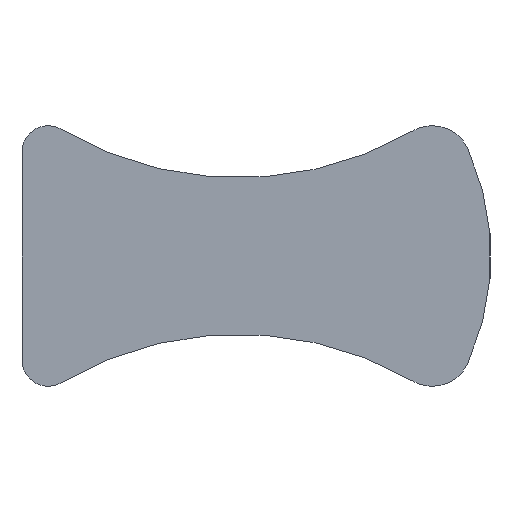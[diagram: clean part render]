
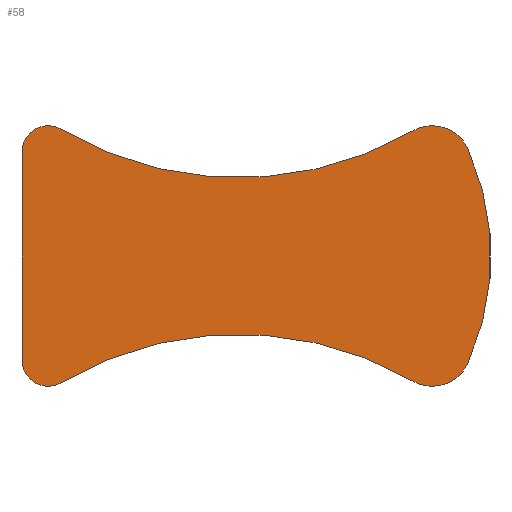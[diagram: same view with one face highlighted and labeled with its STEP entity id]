
A CAD part, left-side view. The second image highlights one B-rep face of the part: STEP entity #58.
In plain terms, the highlighted planar face has unit normal (-1, 0, 0).
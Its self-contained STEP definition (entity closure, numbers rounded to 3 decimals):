
#58 = ADVANCED_FACE( '', ( #125 ), #126, .F. );
#125 = FACE_OUTER_BOUND( '', #194, .T. );
#126 = PLANE( '', #195 );
#194 = EDGE_LOOP( '', ( #288, #289, #290, #291, #292, #293, #294, #295 ) );
#195 = AXIS2_PLACEMENT_3D( '', #296, #297, #298 );
#288 = ORIENTED_EDGE( '', *, *, #376, .F. );
#289 = ORIENTED_EDGE( '', *, *, #391, .F. );
#290 = ORIENTED_EDGE( '', *, *, #368, .T. );
#291 = ORIENTED_EDGE( '', *, *, #394, .F. );
#292 = ORIENTED_EDGE( '', *, *, #395, .F. );
#293 = ORIENTED_EDGE( '', *, *, #386, .F. );
#294 = ORIENTED_EDGE( '', *, *, #381, .T. );
#295 = ORIENTED_EDGE( '', *, *, #396, .F. );
#296 = CARTESIAN_POINT( '', ( -12., -1., 4. ) );
#297 = DIRECTION( '', ( 1., 0., 0. ) );
#298 = DIRECTION( '', ( 0., 0., -1. ) );
#368 = EDGE_CURVE( '', #421, #422, #423, .T. );
#376 = EDGE_CURVE( '', #436, #437, #438, .T. );
#381 = EDGE_CURVE( '', #445, #446, #447, .T. );
#386 = EDGE_CURVE( '', #445, #454, #455, .T. );
#391 = EDGE_CURVE( '', #421, #436, #461, .T. );
#394 = EDGE_CURVE( '', #464, #422, #465, .T. );
#395 = EDGE_CURVE( '', #454, #464, #466, .T. );
#396 = EDGE_CURVE( '', #437, #446, #467, .T. );
#421 = VERTEX_POINT( '', #495 );
#422 = VERTEX_POINT( '', #496 );
#423 = CIRCLE( '', #497, 13.34 );
#436 = VERTEX_POINT( '', #512 );
#437 = VERTEX_POINT( '', #513 );
#438 = LINE( '', #514, #515 );
#445 = VERTEX_POINT( '', #525 );
#446 = VERTEX_POINT( '', #526 );
#447 = CIRCLE( '', #527, 13.34 );
#454 = VERTEX_POINT( '', #536 );
#455 = CIRCLE( '', #537, 1.5 );
#461 = CIRCLE( '', #544, 1. );
#464 = VERTEX_POINT( '', #547 );
#465 = CIRCLE( '', #548, 1.5 );
#466 = CIRCLE( '', #549, 10. );
#467 = CIRCLE( '', #550, 1. );
#495 = CARTESIAN_POINT( '', ( -12., -1.509, -4.861 ) );
#496 = CARTESIAN_POINT( '', ( -12., -14.994, -4.798 ) );
#497 = AXIS2_PLACEMENT_3D( '', #579, #580, #581 );
#512 = CARTESIAN_POINT( '', ( -12., 0., -4. ) );
#513 = CARTESIAN_POINT( '', ( -12., 0., 4. ) );
#514 = CARTESIAN_POINT( '', ( -12., 0., -4. ) );
#515 = VECTOR( '', #596, 1000. );
#525 = CARTESIAN_POINT( '', ( -12., -14.994, 4.798 ) );
#526 = CARTESIAN_POINT( '', ( -12., -1.509, 4.861 ) );
#527 = AXIS2_PLACEMENT_3D( '', #600, #601, #602 );
#536 = CARTESIAN_POINT( '', ( -12., -17.113, 4.118 ) );
#537 = AXIS2_PLACEMENT_3D( '', #608, #609, #610 );
#544 = AXIS2_PLACEMENT_3D( '', #615, #616, #617 );
#547 = CARTESIAN_POINT( '', ( -12., -17.113, -4.118 ) );
#548 = AXIS2_PLACEMENT_3D( '', #621, #622, #623 );
#549 = AXIS2_PLACEMENT_3D( '', #624, #625, #626 );
#550 = AXIS2_PLACEMENT_3D( '', #627, #628, #629 );
#579 = CARTESIAN_POINT( '', ( -12., -8.305, -16.34 ) );
#580 = DIRECTION( '', ( 1., 0., 0. ) );
#581 = DIRECTION( '', ( 0., 0., -1. ) );
#596 = DIRECTION( '', ( 0., 0., 1. ) );
#600 = CARTESIAN_POINT( '', ( -12., -8.305, 16.34 ) );
#601 = DIRECTION( '', ( 1., 0., 0. ) );
#602 = DIRECTION( '', ( 0., 0., -1. ) );
#608 = CARTESIAN_POINT( '', ( -12., -15.746, 3.5 ) );
#609 = DIRECTION( '', ( 1., 0., 0. ) );
#610 = DIRECTION( '', ( 0., 0., -1. ) );
#615 = CARTESIAN_POINT( '', ( -12., -1., -4. ) );
#616 = DIRECTION( '', ( 1., 0., 0. ) );
#617 = DIRECTION( '', ( 0., 0., -1. ) );
#621 = CARTESIAN_POINT( '', ( -12., -15.746, -3.5 ) );
#622 = DIRECTION( '', ( 1., 0., 0. ) );
#623 = DIRECTION( '', ( 0., 0., -1. ) );
#624 = CARTESIAN_POINT( '', ( -12., -8., 0. ) );
#625 = DIRECTION( '', ( 1., 0., 0. ) );
#626 = DIRECTION( '', ( 0., 0., -1. ) );
#627 = CARTESIAN_POINT( '', ( -12., -1., 4. ) );
#628 = DIRECTION( '', ( 1., 0., 0. ) );
#629 = DIRECTION( '', ( 0., 0., -1. ) );
